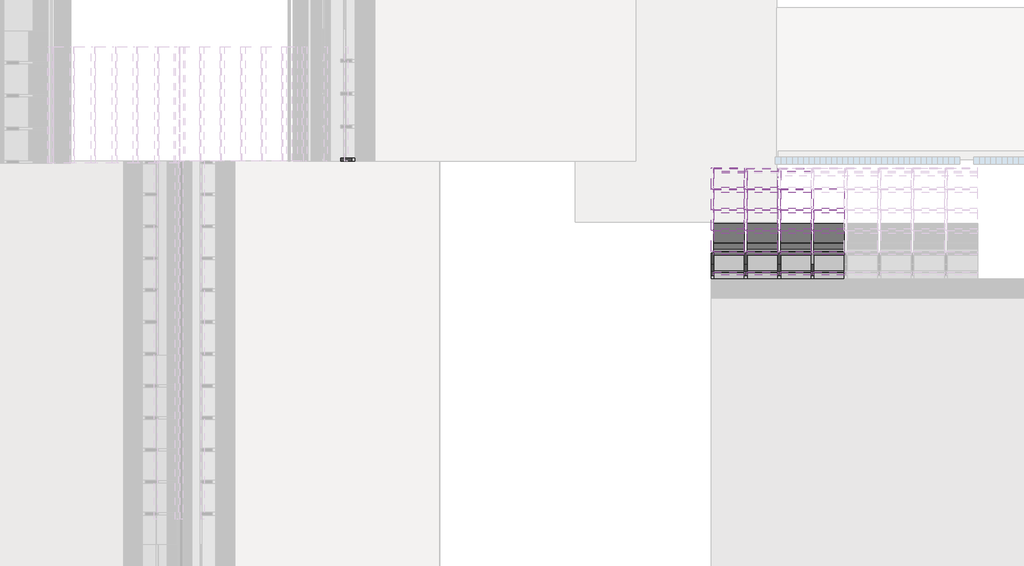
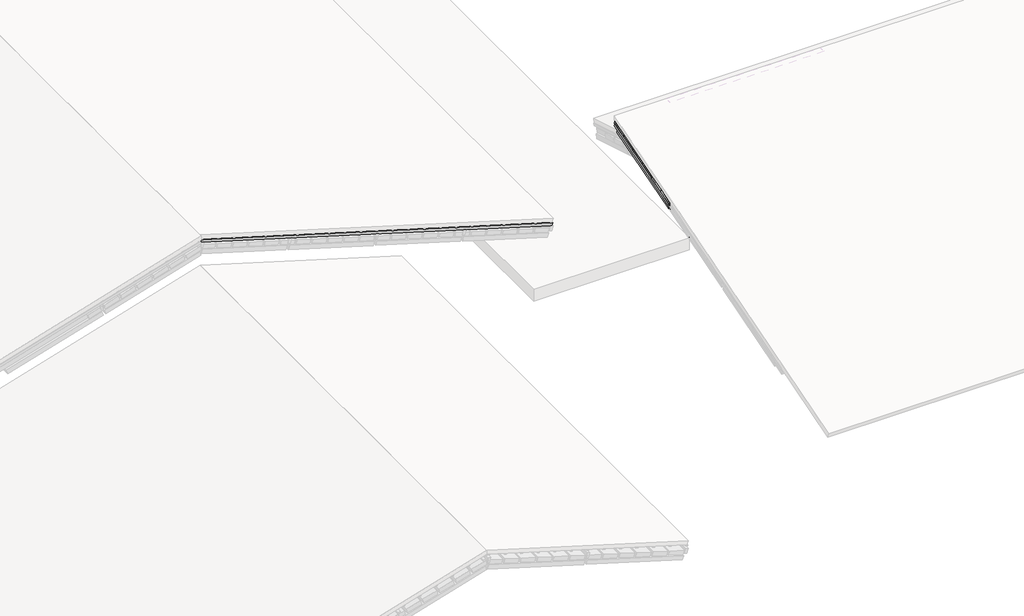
# One storey, part 12 of 57: 84 members, 38 plates.
"""IFC4 building model written with IfcOpenShell, lengths in millimetres."""

from ifc_helpers import new_model, si_unit, origin, place, context, project, spatial, transform, mapped, element, save
from components import rectangular_mullion_4c4137b9, rectangular_mullion_59984080, rectangular_mullion_d5690023, rectangular_mullion_2d2423ea, rectangular_mullion_70739a68, rectangular_mullion_caibro_df98490b, rectangular_mullion_caibro_e4384bba, rectangular_mullion_caibro_22b168a6, rectangular_mullion_caibro_0993a3cf, rectangular_mullion_caibro_9bd7bc61, rectangular_mullion_caibro_469f6316, rectangular_mullion_caibro_60a6547b, empty_system_panel_vazio_178faf58, empty_system_panel_vazio_2c78850d

model = new_model("IFC4")

# Units and contexts
model_context = context("Model", 3, world=origin())
ifc_project = project(units=[si_unit("LENGTHUNIT", "METRE", prefix="MILLI")], contexts=[model_context])

# Site, building, storey
site = spatial("IfcSite", under=ifc_project)
building = spatial("IfcBuilding", under=site)
storey = spatial("IfcBuildingStorey", under=building, Name="Nível 2", Elevation=4100.0)

# Members
placement = place(None, origin())
rectangular_mullion_shape = rectangular_mullion_4c4137b9(model_context)
element("IfcMember", 1, ObjectType="Rectangular Mullion : Ripa", at=placement, inside=storey, context=model_context, shape_type="MappedRepresentation", body=[
    mapped(rectangular_mullion_shape, transform((2348.7354086, 15566.1284427, 5819.8877114), x_axis=(0.0, 0.9578262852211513, 0.2873478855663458), y_axis=(0.0, 0.2873478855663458, -0.9578262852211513), z_axis=(-1.0, 0.0, 0.0))),
])
element("IfcMember", 2, ObjectType="Rectangular Mullion : Ripa", at=placement, inside=storey, context=model_context, shape_type="MappedRepresentation", body=[
    mapped(rectangular_mullion_shape, transform((2945.790165, 15566.1284427, 5819.8877114), x_axis=(0.0, 0.9578262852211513, 0.2873478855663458), y_axis=(0.0, 0.2873478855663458, -0.9578262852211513), z_axis=(-1.0, 0.0, 0.0))),
])
rectangular_mullion_2_shape = rectangular_mullion_59984080(model_context)
element("IfcMember", 3, ObjectType="Rectangular Mullion : Ripa", at=placement, inside=storey, context=model_context, shape_type="MappedRepresentation", body=[
    mapped(rectangular_mullion_2_shape, transform((1776.6806519, 12234.5331147, 4820.409113), x_axis=(0.0, 0.9578262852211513, 0.2873478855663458), y_axis=(0.0, 0.2873478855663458, -0.9578262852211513), z_axis=(-1.0, 0.0, 0.0))),
])
element("IfcMember", 4, ObjectType="Rectangular Mullion : Ripa", at=placement, inside=storey, context=model_context, shape_type="MappedRepresentation", body=[
    mapped(rectangular_mullion_2_shape, transform((2373.7354086, 12234.5331147, 4820.409113), x_axis=(0.0, 0.9578262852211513, 0.2873478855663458), y_axis=(0.0, 0.2873478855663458, -0.9578262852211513), z_axis=(-1.0, 0.0, 0.0))),
])
element("IfcMember", 5, ObjectType="Rectangular Mullion : Ripa", at=placement, inside=storey, context=model_context, shape_type="MappedRepresentation", body=[
    mapped(rectangular_mullion_2_shape, transform((2970.790165, 12234.5331147, 4820.409113), x_axis=(0.0, 0.9578262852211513, 0.2873478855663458), y_axis=(0.0, 0.2873478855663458, -0.9578262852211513), z_axis=(-1.0, 0.0, 0.0))),
])
element("IfcMember", 6, ObjectType="Rectangular Mullion : Ripa", at=placement, inside=storey, context=model_context, shape_type="MappedRepresentation", body=[
    mapped(rectangular_mullion_2_shape, transform((3567.8449214, 12234.5331147, 4820.409113), x_axis=(0.0, 0.9578262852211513, 0.2873478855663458), y_axis=(0.0, 0.2873478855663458, -0.9578262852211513), z_axis=(-1.0, 0.0, 0.0))),
])
element("IfcMember", 7, ObjectType="Rectangular Mullion : Ripa", at=placement, inside=storey, context=model_context, shape_type="MappedRepresentation", body=[
    mapped(rectangular_mullion_2_shape, transform((1776.6806519, 12604.7103734, 4931.4622906), x_axis=(0.0, 0.9578262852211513, 0.2873478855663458), y_axis=(0.0, 0.2873478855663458, -0.9578262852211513), z_axis=(-1.0, 0.0, 0.0))),
])
element("IfcMember", 8, ObjectType="Rectangular Mullion : Ripa", at=placement, inside=storey, context=model_context, shape_type="MappedRepresentation", body=[
    mapped(rectangular_mullion_2_shape, transform((2373.7354086, 12604.7103734, 4931.4622906), x_axis=(0.0, 0.9578262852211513, 0.2873478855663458), y_axis=(0.0, 0.2873478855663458, -0.9578262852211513), z_axis=(-1.0, 0.0, 0.0))),
])
element("IfcMember", 9, ObjectType="Rectangular Mullion : Ripa", at=placement, inside=storey, context=model_context, shape_type="MappedRepresentation", body=[
    mapped(rectangular_mullion_2_shape, transform((2970.790165, 12604.7103734, 4931.4622906), x_axis=(0.0, 0.9578262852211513, 0.2873478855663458), y_axis=(0.0, 0.2873478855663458, -0.9578262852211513), z_axis=(-1.0, 0.0, 0.0))),
])
element("IfcMember", 10, ObjectType="Rectangular Mullion : Ripa", at=placement, inside=storey, context=model_context, shape_type="MappedRepresentation", body=[
    mapped(rectangular_mullion_2_shape, transform((3567.8449214, 12604.7103734, 4931.4622906), x_axis=(0.0, 0.9578262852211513, 0.2873478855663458), y_axis=(0.0, 0.2873478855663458, -0.9578262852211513), z_axis=(-1.0, 0.0, 0.0))),
])
element("IfcMember", 11, ObjectType="Rectangular Mullion : Ripa", at=placement, inside=storey, context=model_context, shape_type="MappedRepresentation", body=[
    mapped(rectangular_mullion_2_shape, transform((1776.6806519, 12974.8876321, 5042.5154682), x_axis=(0.0, 0.9578262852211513, 0.2873478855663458), y_axis=(0.0, 0.2873478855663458, -0.9578262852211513), z_axis=(-1.0, 0.0, 0.0))),
])
element("IfcMember", 12, ObjectType="Rectangular Mullion : Ripa", at=placement, inside=storey, context=model_context, shape_type="MappedRepresentation", body=[
    mapped(rectangular_mullion_2_shape, transform((2373.7354086, 12974.8876321, 5042.5154682), x_axis=(0.0, 0.9578262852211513, 0.2873478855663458), y_axis=(0.0, 0.2873478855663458, -0.9578262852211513), z_axis=(-1.0, 0.0, 0.0))),
])
element("IfcMember", 13, ObjectType="Rectangular Mullion : Ripa", at=placement, inside=storey, context=model_context, shape_type="MappedRepresentation", body=[
    mapped(rectangular_mullion_2_shape, transform((2970.790165, 12974.8876321, 5042.5154682), x_axis=(0.0, 0.9578262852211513, 0.2873478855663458), y_axis=(0.0, 0.2873478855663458, -0.9578262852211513), z_axis=(-1.0, 0.0, 0.0))),
])
element("IfcMember", 14, ObjectType="Rectangular Mullion : Ripa", at=placement, inside=storey, context=model_context, shape_type="MappedRepresentation", body=[
    mapped(rectangular_mullion_2_shape, transform((3567.8449214, 12974.8876321, 5042.5154682), x_axis=(0.0, 0.9578262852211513, 0.2873478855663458), y_axis=(0.0, 0.2873478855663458, -0.9578262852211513), z_axis=(-1.0, 0.0, 0.0))),
])
element("IfcMember", 15, ObjectType="Rectangular Mullion : Ripa", at=placement, inside=storey, context=model_context, shape_type="MappedRepresentation", body=[
    mapped(rectangular_mullion_2_shape, transform((1776.6806519, 13345.0648907, 5153.5686458), x_axis=(0.0, 0.9578262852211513, 0.2873478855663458), y_axis=(0.0, 0.2873478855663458, -0.9578262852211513), z_axis=(-1.0, 0.0, 0.0))),
])
element("IfcMember", 16, ObjectType="Rectangular Mullion : Ripa", at=placement, inside=storey, context=model_context, shape_type="MappedRepresentation", body=[
    mapped(rectangular_mullion_2_shape, transform((2373.7354086, 13345.0648907, 5153.5686458), x_axis=(0.0, 0.9578262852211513, 0.2873478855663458), y_axis=(0.0, 0.2873478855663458, -0.9578262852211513), z_axis=(-1.0, 0.0, 0.0))),
])
element("IfcMember", 17, ObjectType="Rectangular Mullion : Ripa", at=placement, inside=storey, context=model_context, shape_type="MappedRepresentation", body=[
    mapped(rectangular_mullion_2_shape, transform((2970.790165, 13345.0648907, 5153.5686458), x_axis=(0.0, 0.9578262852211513, 0.2873478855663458), y_axis=(0.0, 0.2873478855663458, -0.9578262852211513), z_axis=(-1.0, 0.0, 0.0))),
])
element("IfcMember", 18, ObjectType="Rectangular Mullion : Ripa", at=placement, inside=storey, context=model_context, shape_type="MappedRepresentation", body=[
    mapped(rectangular_mullion_2_shape, transform((3567.8449214, 13345.0648907, 5153.5686458), x_axis=(0.0, 0.9578262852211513, 0.2873478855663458), y_axis=(0.0, 0.2873478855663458, -0.9578262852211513), z_axis=(-1.0, 0.0, 0.0))),
])
element("IfcMember", 19, ObjectType="Rectangular Mullion : Ripa", at=placement, inside=storey, context=model_context, shape_type="MappedRepresentation", body=[
    mapped(rectangular_mullion_2_shape, transform((1776.6806519, 13715.2421494, 5264.6218234), x_axis=(0.0, 0.9578262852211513, 0.2873478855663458), y_axis=(0.0, 0.2873478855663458, -0.9578262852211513), z_axis=(-1.0, 0.0, 0.0))),
])
element("IfcMember", 20, ObjectType="Rectangular Mullion : Ripa", at=placement, inside=storey, context=model_context, shape_type="MappedRepresentation", body=[
    mapped(rectangular_mullion_2_shape, transform((2373.7354086, 13715.2421494, 5264.6218234), x_axis=(0.0, 0.9578262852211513, 0.2873478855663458), y_axis=(0.0, 0.2873478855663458, -0.9578262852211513), z_axis=(-1.0, 0.0, 0.0))),
])
element("IfcMember", 21, ObjectType="Rectangular Mullion : Ripa", at=placement, inside=storey, context=model_context, shape_type="MappedRepresentation", body=[
    mapped(rectangular_mullion_2_shape, transform((2970.790165, 13715.2421494, 5264.6218234), x_axis=(0.0, 0.9578262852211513, 0.2873478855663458), y_axis=(0.0, 0.2873478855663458, -0.9578262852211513), z_axis=(-1.0, 0.0, 0.0))),
])
element("IfcMember", 22, ObjectType="Rectangular Mullion : Ripa", at=placement, inside=storey, context=model_context, shape_type="MappedRepresentation", body=[
    mapped(rectangular_mullion_2_shape, transform((3567.8449214, 13715.2421494, 5264.6218234), x_axis=(0.0, 0.9578262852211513, 0.2873478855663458), y_axis=(0.0, 0.2873478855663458, -0.9578262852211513), z_axis=(-1.0, 0.0, 0.0))),
])
element("IfcMember", 23, ObjectType="Rectangular Mullion : Ripa", at=placement, inside=storey, context=model_context, shape_type="MappedRepresentation", body=[
    mapped(rectangular_mullion_2_shape, transform((1776.6806519, 14085.4194081, 5375.675001), x_axis=(0.0, 0.9578262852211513, 0.2873478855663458), y_axis=(0.0, 0.2873478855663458, -0.9578262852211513), z_axis=(-1.0, 0.0, 0.0))),
])
element("IfcMember", 24, ObjectType="Rectangular Mullion : Ripa", at=placement, inside=storey, context=model_context, shape_type="MappedRepresentation", body=[
    mapped(rectangular_mullion_2_shape, transform((2373.7354086, 14085.4194081, 5375.675001), x_axis=(0.0, 0.9578262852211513, 0.2873478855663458), y_axis=(0.0, 0.2873478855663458, -0.9578262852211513), z_axis=(-1.0, 0.0, 0.0))),
])
element("IfcMember", 25, ObjectType="Rectangular Mullion : Ripa", at=placement, inside=storey, context=model_context, shape_type="MappedRepresentation", body=[
    mapped(rectangular_mullion_2_shape, transform((2970.790165, 14085.4194081, 5375.675001), x_axis=(0.0, 0.9578262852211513, 0.2873478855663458), y_axis=(0.0, 0.2873478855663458, -0.9578262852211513), z_axis=(-1.0, 0.0, 0.0))),
])
element("IfcMember", 26, ObjectType="Rectangular Mullion : Ripa", at=placement, inside=storey, context=model_context, shape_type="MappedRepresentation", body=[
    mapped(rectangular_mullion_2_shape, transform((3567.8449214, 14085.4194081, 5375.675001), x_axis=(0.0, 0.9578262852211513, 0.2873478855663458), y_axis=(0.0, 0.2873478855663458, -0.9578262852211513), z_axis=(-1.0, 0.0, 0.0))),
])
element("IfcMember", 27, ObjectType="Rectangular Mullion : Ripa", at=placement, inside=storey, context=model_context, shape_type="MappedRepresentation", body=[
    mapped(rectangular_mullion_2_shape, transform((1776.6806519, 14455.5966667, 5486.7281786), x_axis=(0.0, 0.9578262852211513, 0.2873478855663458), y_axis=(0.0, 0.2873478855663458, -0.9578262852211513), z_axis=(-1.0, 0.0, 0.0))),
])
element("IfcMember", 28, ObjectType="Rectangular Mullion : Ripa", at=placement, inside=storey, context=model_context, shape_type="MappedRepresentation", body=[
    mapped(rectangular_mullion_2_shape, transform((2373.7354086, 14455.5966667, 5486.7281786), x_axis=(0.0, 0.9578262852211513, 0.2873478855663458), y_axis=(0.0, 0.2873478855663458, -0.9578262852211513), z_axis=(-1.0, 0.0, 0.0))),
])
element("IfcMember", 29, ObjectType="Rectangular Mullion : Ripa", at=placement, inside=storey, context=model_context, shape_type="MappedRepresentation", body=[
    mapped(rectangular_mullion_2_shape, transform((2970.790165, 14455.5966667, 5486.7281786), x_axis=(0.0, 0.9578262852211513, 0.2873478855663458), y_axis=(0.0, 0.2873478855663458, -0.9578262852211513), z_axis=(-1.0, 0.0, 0.0))),
])
element("IfcMember", 30, ObjectType="Rectangular Mullion : Ripa", at=placement, inside=storey, context=model_context, shape_type="MappedRepresentation", body=[
    mapped(rectangular_mullion_2_shape, transform((3567.8449214, 14455.5966667, 5486.7281786), x_axis=(0.0, 0.9578262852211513, 0.2873478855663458), y_axis=(0.0, 0.2873478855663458, -0.9578262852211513), z_axis=(-1.0, 0.0, 0.0))),
])
element("IfcMember", 31, ObjectType="Rectangular Mullion : Ripa", at=placement, inside=storey, context=model_context, shape_type="MappedRepresentation", body=[
    mapped(rectangular_mullion_2_shape, transform((1776.6806519, 14825.7739254, 5597.7813562), x_axis=(0.0, 0.9578262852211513, 0.2873478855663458), y_axis=(0.0, 0.2873478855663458, -0.9578262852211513), z_axis=(-1.0, 0.0, 0.0))),
])
element("IfcMember", 32, ObjectType="Rectangular Mullion : Ripa", at=placement, inside=storey, context=model_context, shape_type="MappedRepresentation", body=[
    mapped(rectangular_mullion_2_shape, transform((2373.7354086, 14825.7739254, 5597.7813562), x_axis=(0.0, 0.9578262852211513, 0.2873478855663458), y_axis=(0.0, 0.2873478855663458, -0.9578262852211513), z_axis=(-1.0, 0.0, 0.0))),
])
element("IfcMember", 33, ObjectType="Rectangular Mullion : Ripa", at=placement, inside=storey, context=model_context, shape_type="MappedRepresentation", body=[
    mapped(rectangular_mullion_2_shape, transform((2970.790165, 14825.7739254, 5597.7813562), x_axis=(0.0, 0.9578262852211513, 0.2873478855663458), y_axis=(0.0, 0.2873478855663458, -0.9578262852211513), z_axis=(-1.0, 0.0, 0.0))),
])
element("IfcMember", 34, ObjectType="Rectangular Mullion : Ripa", at=placement, inside=storey, context=model_context, shape_type="MappedRepresentation", body=[
    mapped(rectangular_mullion_2_shape, transform((3567.8449214, 14825.7739254, 5597.7813562), x_axis=(0.0, 0.9578262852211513, 0.2873478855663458), y_axis=(0.0, 0.2873478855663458, -0.9578262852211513), z_axis=(-1.0, 0.0, 0.0))),
])
element("IfcMember", 35, ObjectType="Rectangular Mullion : Ripa", at=placement, inside=storey, context=model_context, shape_type="MappedRepresentation", body=[
    mapped(rectangular_mullion_2_shape, transform((1776.6806519, 15195.9511841, 5708.8345338), x_axis=(0.0, 0.9578262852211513, 0.2873478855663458), y_axis=(0.0, 0.2873478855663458, -0.9578262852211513), z_axis=(-1.0, 0.0, 0.0))),
])
element("IfcMember", 36, ObjectType="Rectangular Mullion : Ripa", at=placement, inside=storey, context=model_context, shape_type="MappedRepresentation", body=[
    mapped(rectangular_mullion_2_shape, transform((2373.7354086, 15195.9511841, 5708.8345338), x_axis=(0.0, 0.9578262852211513, 0.2873478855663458), y_axis=(0.0, 0.2873478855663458, -0.9578262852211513), z_axis=(-1.0, 0.0, 0.0))),
])
element("IfcMember", 37, ObjectType="Rectangular Mullion : Ripa", at=placement, inside=storey, context=model_context, shape_type="MappedRepresentation", body=[
    mapped(rectangular_mullion_2_shape, transform((2970.790165, 15195.9511841, 5708.8345338), x_axis=(0.0, 0.9578262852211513, 0.2873478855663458), y_axis=(0.0, 0.2873478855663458, -0.9578262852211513), z_axis=(-1.0, 0.0, 0.0))),
])
rectangular_mullion_3_shape = rectangular_mullion_d5690023(model_context)
element("IfcMember", 38, ObjectType="Rectangular Mullion : Ripa", at=placement, inside=storey, context=model_context, shape_type="MappedRepresentation", body=[
    mapped(rectangular_mullion_3_shape, transform((1776.6806519, 15566.1284427, 5819.8877114), x_axis=(0.0, 0.9578262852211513, 0.2873478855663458), y_axis=(0.0, 0.2873478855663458, -0.9578262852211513), z_axis=(-1.0, 0.0, 0.0))),
])
rectangular_mullion_4_shape = rectangular_mullion_2d2423ea(model_context)
element("IfcMember", 39, ObjectType="Rectangular Mullion : Terça", at=placement, inside=storey, context=model_context, shape_type="MappedRepresentation", body=[
    mapped(rectangular_mullion_4_shape, transform((1776.6806519, 13411.2689826, 5110.7880343), x_axis=(0.0, 0.9578262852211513, 0.2873478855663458), y_axis=(0.0, 0.2873478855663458, -0.9578262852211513), z_axis=(-1.0, 0.0, 0.0))),
])
element("IfcMember", 40, ObjectType="Rectangular Mullion : Terça", at=placement, inside=storey, context=model_context, shape_type="MappedRepresentation", body=[
    mapped(rectangular_mullion_4_shape, transform((2373.7354086, 13411.2689826, 5110.7880343), x_axis=(0.0, 0.9578262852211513, 0.2873478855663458), y_axis=(0.0, 0.2873478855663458, -0.9578262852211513), z_axis=(-1.0, 0.0, 0.0))),
])
element("IfcMember", 41, ObjectType="Rectangular Mullion : Terça", at=placement, inside=storey, context=model_context, shape_type="MappedRepresentation", body=[
    mapped(rectangular_mullion_4_shape, transform((2970.790165, 13411.2689826, 5110.7880343), x_axis=(0.0, 0.9578262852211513, 0.2873478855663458), y_axis=(0.0, 0.2873478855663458, -0.9578262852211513), z_axis=(-1.0, 0.0, 0.0))),
])
element("IfcMember", 42, ObjectType="Rectangular Mullion : Terça", at=placement, inside=storey, context=model_context, shape_type="MappedRepresentation", body=[
    mapped(rectangular_mullion_4_shape, transform((3567.8449214, 13411.2689826, 5110.7880343), x_axis=(0.0, 0.9578262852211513, 0.2873478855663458), y_axis=(0.0, 0.2873478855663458, -0.9578262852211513), z_axis=(-1.0, 0.0, 0.0))),
])
rectangular_mullion_5_shape = rectangular_mullion_70739a68(model_context)
element("IfcMember", 43, ObjectType="Rectangular Mullion : Terça", at=placement, inside=storey, context=model_context, shape_type="MappedRepresentation", body=[
    mapped(rectangular_mullion_5_shape, transform((1776.6806519, 15566.1284427, 5757.2458723), x_axis=(0.0, 0.9578262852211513, 0.2873478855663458), y_axis=(0.0, 0.2873478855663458, -0.9578262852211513), z_axis=(-1.0, 0.0, 0.0))),
])
rectangular_mullion_caibro_shape = rectangular_mullion_caibro_df98490b(model_context)
element("IfcMember", 44, ObjectType="Rectangular Mullion : Caibro", at=placement, inside=storey, context=model_context, shape_type="MappedRepresentation", body=[
    mapped(rectangular_mullion_caibro_shape, transform((2348.7354086, 15518.2371285, 5805.5203171), x_axis=(1.0, 0.0, 0.0), y_axis=(0.0, 0.28734788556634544, -0.9578262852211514), z_axis=(0.0, 0.9578262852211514, 0.28734788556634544))),
])
element("IfcMember", 45, ObjectType="Rectangular Mullion : Caibro", at=placement, inside=storey, context=model_context, shape_type="MappedRepresentation", body=[
    mapped(rectangular_mullion_caibro_shape, transform((2945.790165, 15518.2371285, 5805.5203171), x_axis=(1.0, 0.0, 0.0), y_axis=(0.0, 0.28734788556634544, -0.9578262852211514), z_axis=(0.0, 0.9578262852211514, 0.28734788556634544))),
])
rectangular_mullion_caibro_2_shape = rectangular_mullion_caibro_e4384bba(model_context)
element("IfcMember", 46, ObjectType="Rectangular Mullion : Caibro", at=placement, inside=storey, context=model_context, shape_type="MappedRepresentation", body=[
    mapped(rectangular_mullion_caibro_2_shape, transform((2348.7354086, 12234.5331147, 4820.409113), x_axis=(1.0, 0.0, 0.0), y_axis=(0.0, 0.2873478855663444, -0.9578262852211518), z_axis=(0.0, 0.9578262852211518, 0.2873478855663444))),
])
element("IfcMember", 47, ObjectType="Rectangular Mullion : Caibro", at=placement, inside=storey, context=model_context, shape_type="MappedRepresentation", body=[
    mapped(rectangular_mullion_caibro_2_shape, transform((2348.7354086, 12604.7103734, 4931.4622906), x_axis=(1.0, 0.0, 0.0), y_axis=(0.0, 0.2873478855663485, -0.9578262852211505), z_axis=(0.0, 0.9578262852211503, 0.28734788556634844))),
])
element("IfcMember", 48, ObjectType="Rectangular Mullion : Caibro", at=placement, inside=storey, context=model_context, shape_type="MappedRepresentation", body=[
    mapped(rectangular_mullion_caibro_2_shape, transform((2348.7354086, 12974.8876321, 5042.5154682), x_axis=(1.0, 0.0, 0.0), y_axis=(0.0, 0.2873478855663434, -0.957826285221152), z_axis=(0.0, 0.957826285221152, 0.2873478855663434))),
])
element("IfcMember", 49, ObjectType="Rectangular Mullion : Caibro", at=placement, inside=storey, context=model_context, shape_type="MappedRepresentation", body=[
    mapped(rectangular_mullion_caibro_2_shape, transform((2348.7354086, 13345.0648907, 5153.5686458), x_axis=(1.0, 0.0, 0.0), y_axis=(0.0, 0.28734788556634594, -0.9578262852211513), z_axis=(0.0, 0.9578262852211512, 0.2873478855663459))),
])
element("IfcMember", 50, ObjectType="Rectangular Mullion : Caibro", at=placement, inside=storey, context=model_context, shape_type="MappedRepresentation", body=[
    mapped(rectangular_mullion_caibro_2_shape, transform((2348.7354086, 13715.2421494, 5264.6218234), x_axis=(1.0, 0.0, 0.0), y_axis=(0.0, 0.28734788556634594, -0.9578262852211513), z_axis=(0.0, 0.9578262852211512, 0.2873478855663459))),
])
element("IfcMember", 51, ObjectType="Rectangular Mullion : Caibro", at=placement, inside=storey, context=model_context, shape_type="MappedRepresentation", body=[
    mapped(rectangular_mullion_caibro_2_shape, transform((2348.7354086, 14085.4194081, 5375.675001), x_axis=(1.0, 0.0, 0.0), y_axis=(0.0, 0.28734788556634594, -0.9578262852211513), z_axis=(0.0, 0.9578262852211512, 0.2873478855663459))),
])
element("IfcMember", 52, ObjectType="Rectangular Mullion : Caibro", at=placement, inside=storey, context=model_context, shape_type="MappedRepresentation", body=[
    mapped(rectangular_mullion_caibro_2_shape, transform((2348.7354086, 14455.5966667, 5486.7281786), x_axis=(1.0, 0.0, 0.0), y_axis=(0.0, 0.2873478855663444, -0.9578262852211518), z_axis=(0.0, 0.9578262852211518, 0.2873478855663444))),
])
element("IfcMember", 53, ObjectType="Rectangular Mullion : Caibro", at=placement, inside=storey, context=model_context, shape_type="MappedRepresentation", body=[
    mapped(rectangular_mullion_caibro_2_shape, transform((2348.7354086, 14825.7739254, 5597.7813562), x_axis=(1.0, 0.0, 0.0), y_axis=(0.0, 0.287347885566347, -0.9578262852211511), z_axis=(0.0, 0.9578262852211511, 0.287347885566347))),
])
element("IfcMember", 54, ObjectType="Rectangular Mullion : Caibro", at=placement, inside=storey, context=model_context, shape_type="MappedRepresentation", body=[
    mapped(rectangular_mullion_caibro_2_shape, transform((2348.7354086, 15195.9511841, 5708.8345338), x_axis=(1.0, 0.0, 0.0), y_axis=(0.0, 0.28734788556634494, -0.9578262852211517), z_axis=(0.0, 0.9578262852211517, 0.28734788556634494))),
])
element("IfcMember", 55, ObjectType="Rectangular Mullion : Caibro", at=placement, inside=storey, context=model_context, shape_type="MappedRepresentation", body=[
    mapped(rectangular_mullion_caibro_2_shape, transform((2945.790165, 12234.5331147, 4820.409113), x_axis=(1.0, 0.0, 0.0), y_axis=(0.0, 0.2873478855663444, -0.9578262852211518), z_axis=(0.0, 0.9578262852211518, 0.2873478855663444))),
])
element("IfcMember", 56, ObjectType="Rectangular Mullion : Caibro", at=placement, inside=storey, context=model_context, shape_type="MappedRepresentation", body=[
    mapped(rectangular_mullion_caibro_2_shape, transform((2945.790165, 12604.7103734, 4931.4622906), x_axis=(1.0, 0.0, 0.0), y_axis=(0.0, 0.2873478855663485, -0.9578262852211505), z_axis=(0.0, 0.9578262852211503, 0.28734788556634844))),
])
element("IfcMember", 57, ObjectType="Rectangular Mullion : Caibro", at=placement, inside=storey, context=model_context, shape_type="MappedRepresentation", body=[
    mapped(rectangular_mullion_caibro_2_shape, transform((2945.790165, 12974.8876321, 5042.5154682), x_axis=(1.0, 0.0, 0.0), y_axis=(0.0, 0.2873478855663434, -0.957826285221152), z_axis=(0.0, 0.957826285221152, 0.2873478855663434))),
])
element("IfcMember", 58, ObjectType="Rectangular Mullion : Caibro", at=placement, inside=storey, context=model_context, shape_type="MappedRepresentation", body=[
    mapped(rectangular_mullion_caibro_2_shape, transform((2945.790165, 13345.0648907, 5153.5686458), x_axis=(1.0, 0.0, 0.0), y_axis=(0.0, 0.28734788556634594, -0.9578262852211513), z_axis=(0.0, 0.9578262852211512, 0.2873478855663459))),
])
element("IfcMember", 59, ObjectType="Rectangular Mullion : Caibro", at=placement, inside=storey, context=model_context, shape_type="MappedRepresentation", body=[
    mapped(rectangular_mullion_caibro_2_shape, transform((2945.790165, 13715.2421494, 5264.6218234), x_axis=(1.0, 0.0, 0.0), y_axis=(0.0, 0.28734788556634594, -0.9578262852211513), z_axis=(0.0, 0.9578262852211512, 0.2873478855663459))),
])
element("IfcMember", 60, ObjectType="Rectangular Mullion : Caibro", at=placement, inside=storey, context=model_context, shape_type="MappedRepresentation", body=[
    mapped(rectangular_mullion_caibro_2_shape, transform((2945.790165, 14085.4194081, 5375.675001), x_axis=(1.0, 0.0, 0.0), y_axis=(0.0, 0.28734788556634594, -0.9578262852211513), z_axis=(0.0, 0.9578262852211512, 0.2873478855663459))),
])
element("IfcMember", 61, ObjectType="Rectangular Mullion : Caibro", at=placement, inside=storey, context=model_context, shape_type="MappedRepresentation", body=[
    mapped(rectangular_mullion_caibro_2_shape, transform((2945.790165, 14455.5966667, 5486.7281786), x_axis=(1.0, 0.0, 0.0), y_axis=(0.0, 0.2873478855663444, -0.9578262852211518), z_axis=(0.0, 0.9578262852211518, 0.2873478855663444))),
])
element("IfcMember", 62, ObjectType="Rectangular Mullion : Caibro", at=placement, inside=storey, context=model_context, shape_type="MappedRepresentation", body=[
    mapped(rectangular_mullion_caibro_2_shape, transform((2945.790165, 14825.7739254, 5597.7813562), x_axis=(1.0, 0.0, 0.0), y_axis=(0.0, 0.287347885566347, -0.9578262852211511), z_axis=(0.0, 0.9578262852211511, 0.287347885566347))),
])
element("IfcMember", 63, ObjectType="Rectangular Mullion : Caibro", at=placement, inside=storey, context=model_context, shape_type="MappedRepresentation", body=[
    mapped(rectangular_mullion_caibro_2_shape, transform((2945.790165, 15195.9511841, 5708.8345338), x_axis=(1.0, 0.0, 0.0), y_axis=(0.0, 0.28734788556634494, -0.9578262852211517), z_axis=(0.0, 0.9578262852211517, 0.28734788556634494))),
])
element("IfcMember", 64, ObjectType="Rectangular Mullion : Caibro", at=placement, inside=storey, context=model_context, shape_type="MappedRepresentation", body=[
    mapped(rectangular_mullion_caibro_2_shape, transform((3542.8449214, 12234.5331147, 4820.409113), x_axis=(1.0, 0.0, 0.0), y_axis=(0.0, 0.2873478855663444, -0.9578262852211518), z_axis=(0.0, 0.9578262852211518, 0.2873478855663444))),
])
element("IfcMember", 65, ObjectType="Rectangular Mullion : Caibro", at=placement, inside=storey, context=model_context, shape_type="MappedRepresentation", body=[
    mapped(rectangular_mullion_caibro_2_shape, transform((3542.8449214, 12604.7103734, 4931.4622906), x_axis=(1.0, 0.0, 0.0), y_axis=(0.0, 0.2873478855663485, -0.9578262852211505), z_axis=(0.0, 0.9578262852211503, 0.28734788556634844))),
])
element("IfcMember", 66, ObjectType="Rectangular Mullion : Caibro", at=placement, inside=storey, context=model_context, shape_type="MappedRepresentation", body=[
    mapped(rectangular_mullion_caibro_2_shape, transform((3542.8449214, 12974.8876321, 5042.5154682), x_axis=(1.0, 0.0, 0.0), y_axis=(0.0, 0.2873478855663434, -0.957826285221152), z_axis=(0.0, 0.957826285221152, 0.2873478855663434))),
])
element("IfcMember", 67, ObjectType="Rectangular Mullion : Caibro", at=placement, inside=storey, context=model_context, shape_type="MappedRepresentation", body=[
    mapped(rectangular_mullion_caibro_2_shape, transform((3542.8449214, 13345.0648907, 5153.5686458), x_axis=(1.0, 0.0, 0.0), y_axis=(0.0, 0.28734788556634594, -0.9578262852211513), z_axis=(0.0, 0.9578262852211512, 0.2873478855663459))),
])
element("IfcMember", 68, ObjectType="Rectangular Mullion : Caibro", at=placement, inside=storey, context=model_context, shape_type="MappedRepresentation", body=[
    mapped(rectangular_mullion_caibro_2_shape, transform((3542.8449214, 13715.2421494, 5264.6218234), x_axis=(1.0, 0.0, 0.0), y_axis=(0.0, 0.28734788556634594, -0.9578262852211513), z_axis=(0.0, 0.9578262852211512, 0.2873478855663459))),
])
element("IfcMember", 69, ObjectType="Rectangular Mullion : Caibro", at=placement, inside=storey, context=model_context, shape_type="MappedRepresentation", body=[
    mapped(rectangular_mullion_caibro_2_shape, transform((3542.8449214, 14085.4194081, 5375.675001), x_axis=(1.0, 0.0, 0.0), y_axis=(0.0, 0.28734788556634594, -0.9578262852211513), z_axis=(0.0, 0.9578262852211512, 0.2873478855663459))),
])
element("IfcMember", 70, ObjectType="Rectangular Mullion : Caibro", at=placement, inside=storey, context=model_context, shape_type="MappedRepresentation", body=[
    mapped(rectangular_mullion_caibro_2_shape, transform((3542.8449214, 14455.5966667, 5486.7281786), x_axis=(1.0, 0.0, 0.0), y_axis=(0.0, 0.2873478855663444, -0.9578262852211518), z_axis=(0.0, 0.9578262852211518, 0.2873478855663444))),
])
element("IfcMember", 71, ObjectType="Rectangular Mullion : Caibro", at=placement, inside=storey, context=model_context, shape_type="MappedRepresentation", body=[
    mapped(rectangular_mullion_caibro_2_shape, transform((3542.8449214, 14825.7739254, 5597.7813562), x_axis=(1.0, 0.0, 0.0), y_axis=(0.0, 0.287347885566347, -0.9578262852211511), z_axis=(0.0, 0.9578262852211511, 0.287347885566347))),
])
rectangular_mullion_caibro_3_shape = rectangular_mullion_caibro_22b168a6(model_context)
element("IfcMember", 72, ObjectType="Rectangular Mullion : Caibro", at=placement, inside=storey, context=model_context, shape_type="MappedRepresentation", body=[
    mapped(rectangular_mullion_caibro_3_shape, transform((1726.6806519, 13345.0648907, 5153.5686458), x_axis=(-1.0, 0.0, 0.0), y_axis=(0.0, 0.28734788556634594, -0.9578262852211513), z_axis=(0.0, -0.9578262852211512, -0.2873478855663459))),
])
element("IfcMember", 73, ObjectType="Rectangular Mullion : Caibro", at=placement, inside=storey, context=model_context, shape_type="MappedRepresentation", body=[
    mapped(rectangular_mullion_caibro_3_shape, transform((1726.6806519, 13715.2421494, 5264.6218234), x_axis=(-1.0, 0.0, 0.0), y_axis=(0.0, 0.28734788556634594, -0.9578262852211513), z_axis=(0.0, -0.9578262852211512, -0.2873478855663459))),
])
element("IfcMember", 74, ObjectType="Rectangular Mullion : Caibro", at=placement, inside=storey, context=model_context, shape_type="MappedRepresentation", body=[
    mapped(rectangular_mullion_caibro_3_shape, transform((1726.6806519, 14085.4194081, 5375.675001), x_axis=(-1.0, 0.0, 0.0), y_axis=(0.0, 0.28734788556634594, -0.9578262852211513), z_axis=(0.0, -0.9578262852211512, -0.2873478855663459))),
])
element("IfcMember", 75, ObjectType="Rectangular Mullion : Caibro", at=placement, inside=storey, context=model_context, shape_type="MappedRepresentation", body=[
    mapped(rectangular_mullion_caibro_3_shape, transform((1726.6806519, 14455.5966667, 5486.7281786), x_axis=(-1.0, 0.0, 0.0), y_axis=(0.0, 0.28734788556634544, -0.9578262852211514), z_axis=(0.0, -0.9578262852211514, -0.28734788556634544))),
])
element("IfcMember", 76, ObjectType="Rectangular Mullion : Caibro", at=placement, inside=storey, context=model_context, shape_type="MappedRepresentation", body=[
    mapped(rectangular_mullion_caibro_3_shape, transform((1726.6806519, 14825.7739254, 5597.7813562), x_axis=(-1.0, 0.0, 0.0), y_axis=(0.0, 0.28734788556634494, -0.9578262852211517), z_axis=(0.0, -0.9578262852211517, -0.28734788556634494))),
])
element("IfcMember", 77, ObjectType="Rectangular Mullion : Caibro", at=placement, inside=storey, context=model_context, shape_type="MappedRepresentation", body=[
    mapped(rectangular_mullion_caibro_3_shape, transform((1726.6806519, 15195.9511841, 5708.8345338), x_axis=(-1.0, 0.0, 0.0), y_axis=(0.0, 0.28734788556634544, -0.9578262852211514), z_axis=(0.0, -0.9578262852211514, -0.28734788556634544))),
])
rectangular_mullion_caibro_4_shape = rectangular_mullion_caibro_0993a3cf(model_context)
element("IfcMember", 78, ObjectType="Rectangular Mullion : Caibro", at=placement, inside=storey, context=model_context, shape_type="MappedRepresentation", body=[
    mapped(rectangular_mullion_caibro_4_shape, transform((2348.7354086, 15508.6588656, 5740.0049992), x_axis=(1.0, 0.0, 0.0), y_axis=(0.0, 0.28734788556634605, -0.9578262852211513), z_axis=(0.0, 0.9578262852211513, 0.28734788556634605))),
])
element("IfcMember", 79, ObjectType="Rectangular Mullion : Caibro", at=placement, inside=storey, context=model_context, shape_type="MappedRepresentation", body=[
    mapped(rectangular_mullion_caibro_4_shape, transform((2945.790165, 15508.6588656, 5740.0049992), x_axis=(1.0, 0.0, 0.0), y_axis=(0.0, 0.28734788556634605, -0.9578262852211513), z_axis=(0.0, 0.9578262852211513, 0.28734788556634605))),
])
rectangular_mullion_caibro_5_shape = rectangular_mullion_caibro_9bd7bc61(model_context)
element("IfcMember", 80, ObjectType="Rectangular Mullion : Caibro", at=placement, inside=storey, context=model_context, shape_type="MappedRepresentation", body=[
    mapped(rectangular_mullion_caibro_5_shape, transform((2348.7354086, 13411.2689826, 5110.7880343), x_axis=(1.0, 0.0, 0.0), y_axis=(0.0, 0.2873478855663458, -0.9578262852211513), z_axis=(0.0, 0.9578262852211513, 0.2873478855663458))),
])
element("IfcMember", 81, ObjectType="Rectangular Mullion : Caibro", at=placement, inside=storey, context=model_context, shape_type="MappedRepresentation", body=[
    mapped(rectangular_mullion_caibro_5_shape, transform((2945.790165, 13411.2689826, 5110.7880343), x_axis=(1.0, 0.0, 0.0), y_axis=(0.0, 0.2873478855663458, -0.9578262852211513), z_axis=(0.0, 0.9578262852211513, 0.2873478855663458))),
])
element("IfcMember", 82, ObjectType="Rectangular Mullion : Caibro", at=placement, inside=storey, context=model_context, shape_type="MappedRepresentation", body=[
    mapped(rectangular_mullion_caibro_5_shape, transform((3542.8449214, 13411.2689826, 5110.7880343), x_axis=(1.0, 0.0, 0.0), y_axis=(0.0, 0.2873478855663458, -0.9578262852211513), z_axis=(0.0, 0.9578262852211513, 0.2873478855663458))),
])
rectangular_mullion_caibro_6_shape = rectangular_mullion_caibro_469f6316(model_context)
element("IfcMember", 83, ObjectType="Rectangular Mullion : Caibro", at=placement, inside=storey, context=model_context, shape_type="MappedRepresentation", body=[
    mapped(rectangular_mullion_caibro_6_shape, transform((1726.6806519, 13411.2689826, 5110.7880343), x_axis=(-1.0, 0.0, 0.0), y_axis=(0.0, 0.28734788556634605, -0.9578262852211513), z_axis=(0.0, -0.9578262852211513, -0.28734788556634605))),
])
rectangular_mullion_caibro_7_shape = rectangular_mullion_caibro_60a6547b(model_context)
element("IfcMember", 84, ObjectType="Rectangular Mullion : Caibro", at=placement, inside=storey, context=model_context, shape_type="MappedRepresentation", body=[
    mapped(rectangular_mullion_caibro_7_shape, transform((347.7937639, 15690.170769, 3724.0681378), x_axis=(0.0, -1.0, 0.0), y_axis=(-0.287347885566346, 0.0, -0.9578262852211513), z_axis=(0.9578262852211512, 0.0, -0.28734788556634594))),
])

# Plates
empty_system_panel_vazio_shape = empty_system_panel_vazio_178faf58(model_context)
element("IfcPlate", 85, ObjectType="Empty System Panel : Vazio", at=placement, inside=storey, context=model_context, shape_type="MappedRepresentation", body=[
    mapped(empty_system_panel_vazio_shape, transform((2050.2080302, 12234.5331147, 4820.409113), x_axis=(1.0, 0.0, 0.0), y_axis=(0.0, 0.2873478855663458, -0.9578262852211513), z_axis=(0.0, 0.9578262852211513, 0.2873478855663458))),
])
element("IfcPlate", 86, ObjectType="Empty System Panel : Vazio", at=placement, inside=storey, context=model_context, shape_type="MappedRepresentation", body=[
    mapped(empty_system_panel_vazio_shape, transform((2647.2627868, 12234.5331147, 4820.409113), x_axis=(1.0, 0.0, 0.0), y_axis=(0.0, 0.2873478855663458, -0.9578262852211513), z_axis=(0.0, 0.9578262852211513, 0.2873478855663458))),
])
element("IfcPlate", 87, ObjectType="Empty System Panel : Vazio", at=placement, inside=storey, context=model_context, shape_type="MappedRepresentation", body=[
    mapped(empty_system_panel_vazio_shape, transform((3244.3175432, 12234.5331147, 4820.409113), x_axis=(1.0, 0.0, 0.0), y_axis=(0.0, 0.2873478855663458, -0.9578262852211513), z_axis=(0.0, 0.9578262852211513, 0.2873478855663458))),
])
element("IfcPlate", 88, ObjectType="Empty System Panel : Vazio", at=placement, inside=storey, context=model_context, shape_type="MappedRepresentation", body=[
    mapped(empty_system_panel_vazio_shape, transform((3841.3722996, 12234.5331147, 4820.409113), x_axis=(1.0, 0.0, 0.0), y_axis=(0.0, 0.2873478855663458, -0.9578262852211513), z_axis=(0.0, 0.9578262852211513, 0.2873478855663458))),
])
element("IfcPlate", 89, ObjectType="Empty System Panel : Vazio", at=placement, inside=storey, context=model_context, shape_type="MappedRepresentation", body=[
    mapped(empty_system_panel_vazio_shape, transform((2050.2080302, 12604.7103734, 4931.4622906), x_axis=(1.0, 0.0, 0.0), y_axis=(0.0, 0.2873478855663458, -0.9578262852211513), z_axis=(0.0, 0.9578262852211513, 0.2873478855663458))),
])
element("IfcPlate", 90, ObjectType="Empty System Panel : Vazio", at=placement, inside=storey, context=model_context, shape_type="MappedRepresentation", body=[
    mapped(empty_system_panel_vazio_shape, transform((2647.2627868, 12604.7103734, 4931.4622906), x_axis=(1.0, 0.0, 0.0), y_axis=(0.0, 0.2873478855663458, -0.9578262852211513), z_axis=(0.0, 0.9578262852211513, 0.2873478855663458))),
])
element("IfcPlate", 91, ObjectType="Empty System Panel : Vazio", at=placement, inside=storey, context=model_context, shape_type="MappedRepresentation", body=[
    mapped(empty_system_panel_vazio_shape, transform((3244.3175432, 12604.7103734, 4931.4622906), x_axis=(1.0, 0.0, 0.0), y_axis=(0.0, 0.2873478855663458, -0.9578262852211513), z_axis=(0.0, 0.9578262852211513, 0.2873478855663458))),
])
element("IfcPlate", 92, ObjectType="Empty System Panel : Vazio", at=placement, inside=storey, context=model_context, shape_type="MappedRepresentation", body=[
    mapped(empty_system_panel_vazio_shape, transform((3841.3722996, 12604.7103734, 4931.4622906), x_axis=(1.0, 0.0, 0.0), y_axis=(0.0, 0.2873478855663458, -0.9578262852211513), z_axis=(0.0, 0.9578262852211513, 0.2873478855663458))),
])
element("IfcPlate", 93, ObjectType="Empty System Panel : Vazio", at=placement, inside=storey, context=model_context, shape_type="MappedRepresentation", body=[
    mapped(empty_system_panel_vazio_shape, transform((2050.2080302, 12974.8876321, 5042.5154682), x_axis=(1.0, 0.0, 0.0), y_axis=(0.0, 0.2873478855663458, -0.9578262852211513), z_axis=(0.0, 0.9578262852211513, 0.2873478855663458))),
])
element("IfcPlate", 94, ObjectType="Empty System Panel : Vazio", at=placement, inside=storey, context=model_context, shape_type="MappedRepresentation", body=[
    mapped(empty_system_panel_vazio_shape, transform((2647.2627868, 12974.8876321, 5042.5154682), x_axis=(1.0, 0.0, 0.0), y_axis=(0.0, 0.2873478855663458, -0.9578262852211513), z_axis=(0.0, 0.9578262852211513, 0.2873478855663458))),
])
element("IfcPlate", 95, ObjectType="Empty System Panel : Vazio", at=placement, inside=storey, context=model_context, shape_type="MappedRepresentation", body=[
    mapped(empty_system_panel_vazio_shape, transform((3244.3175432, 12974.8876321, 5042.5154682), x_axis=(1.0, 0.0, 0.0), y_axis=(0.0, 0.2873478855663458, -0.9578262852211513), z_axis=(0.0, 0.9578262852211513, 0.2873478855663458))),
])
element("IfcPlate", 96, ObjectType="Empty System Panel : Vazio", at=placement, inside=storey, context=model_context, shape_type="MappedRepresentation", body=[
    mapped(empty_system_panel_vazio_shape, transform((3841.3722996, 12974.8876321, 5042.5154682), x_axis=(1.0, 0.0, 0.0), y_axis=(0.0, 0.2873478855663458, -0.9578262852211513), z_axis=(0.0, 0.9578262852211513, 0.2873478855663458))),
])
element("IfcPlate", 97, ObjectType="Empty System Panel : Vazio", at=placement, inside=storey, context=model_context, shape_type="MappedRepresentation", body=[
    mapped(empty_system_panel_vazio_shape, transform((2050.2080302, 13345.0648907, 5153.5686458), x_axis=(1.0, 0.0, 0.0), y_axis=(0.0, 0.2873478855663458, -0.9578262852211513), z_axis=(0.0, 0.9578262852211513, 0.2873478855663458))),
])
element("IfcPlate", 98, ObjectType="Empty System Panel : Vazio", at=placement, inside=storey, context=model_context, shape_type="MappedRepresentation", body=[
    mapped(empty_system_panel_vazio_shape, transform((2647.2627868, 13345.0648907, 5153.5686458), x_axis=(1.0, 0.0, 0.0), y_axis=(0.0, 0.2873478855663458, -0.9578262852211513), z_axis=(0.0, 0.9578262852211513, 0.2873478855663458))),
])
element("IfcPlate", 99, ObjectType="Empty System Panel : Vazio", at=placement, inside=storey, context=model_context, shape_type="MappedRepresentation", body=[
    mapped(empty_system_panel_vazio_shape, transform((3244.3175432, 13345.0648907, 5153.5686458), x_axis=(1.0, 0.0, 0.0), y_axis=(0.0, 0.2873478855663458, -0.9578262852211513), z_axis=(0.0, 0.9578262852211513, 0.2873478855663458))),
])
element("IfcPlate", 100, ObjectType="Empty System Panel : Vazio", at=placement, inside=storey, context=model_context, shape_type="MappedRepresentation", body=[
    mapped(empty_system_panel_vazio_shape, transform((3841.3722996, 13345.0648907, 5153.5686458), x_axis=(1.0, 0.0, 0.0), y_axis=(0.0, 0.2873478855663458, -0.9578262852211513), z_axis=(0.0, 0.9578262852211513, 0.2873478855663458))),
])
element("IfcPlate", 101, ObjectType="Empty System Panel : Vazio", at=placement, inside=storey, context=model_context, shape_type="MappedRepresentation", body=[
    mapped(empty_system_panel_vazio_shape, transform((2050.2080302, 13715.2421494, 5264.6218234), x_axis=(1.0, 0.0, 0.0), y_axis=(0.0, 0.2873478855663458, -0.9578262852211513), z_axis=(0.0, 0.9578262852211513, 0.2873478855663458))),
])
element("IfcPlate", 102, ObjectType="Empty System Panel : Vazio", at=placement, inside=storey, context=model_context, shape_type="MappedRepresentation", body=[
    mapped(empty_system_panel_vazio_shape, transform((2647.2627868, 13715.2421494, 5264.6218234), x_axis=(1.0, 0.0, 0.0), y_axis=(0.0, 0.2873478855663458, -0.9578262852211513), z_axis=(0.0, 0.9578262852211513, 0.2873478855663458))),
])
element("IfcPlate", 103, ObjectType="Empty System Panel : Vazio", at=placement, inside=storey, context=model_context, shape_type="MappedRepresentation", body=[
    mapped(empty_system_panel_vazio_shape, transform((3244.3175432, 13715.2421494, 5264.6218234), x_axis=(1.0, 0.0, 0.0), y_axis=(0.0, 0.2873478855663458, -0.9578262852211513), z_axis=(0.0, 0.9578262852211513, 0.2873478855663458))),
])
element("IfcPlate", 104, ObjectType="Empty System Panel : Vazio", at=placement, inside=storey, context=model_context, shape_type="MappedRepresentation", body=[
    mapped(empty_system_panel_vazio_shape, transform((3841.3722996, 13715.2421494, 5264.6218234), x_axis=(1.0, 0.0, 0.0), y_axis=(0.0, 0.2873478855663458, -0.9578262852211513), z_axis=(0.0, 0.9578262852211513, 0.2873478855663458))),
])
element("IfcPlate", 105, ObjectType="Empty System Panel : Vazio", at=placement, inside=storey, context=model_context, shape_type="MappedRepresentation", body=[
    mapped(empty_system_panel_vazio_shape, transform((2050.2080302, 14085.4194081, 5375.675001), x_axis=(1.0, 0.0, 0.0), y_axis=(0.0, 0.2873478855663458, -0.9578262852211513), z_axis=(0.0, 0.9578262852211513, 0.2873478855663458))),
])
element("IfcPlate", 106, ObjectType="Empty System Panel : Vazio", at=placement, inside=storey, context=model_context, shape_type="MappedRepresentation", body=[
    mapped(empty_system_panel_vazio_shape, transform((2647.2627868, 14085.4194081, 5375.675001), x_axis=(1.0, 0.0, 0.0), y_axis=(0.0, 0.2873478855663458, -0.9578262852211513), z_axis=(0.0, 0.9578262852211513, 0.2873478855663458))),
])
element("IfcPlate", 107, ObjectType="Empty System Panel : Vazio", at=placement, inside=storey, context=model_context, shape_type="MappedRepresentation", body=[
    mapped(empty_system_panel_vazio_shape, transform((3244.3175432, 14085.4194081, 5375.675001), x_axis=(1.0, 0.0, 0.0), y_axis=(0.0, 0.2873478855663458, -0.9578262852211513), z_axis=(0.0, 0.9578262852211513, 0.2873478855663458))),
])
element("IfcPlate", 108, ObjectType="Empty System Panel : Vazio", at=placement, inside=storey, context=model_context, shape_type="MappedRepresentation", body=[
    mapped(empty_system_panel_vazio_shape, transform((3841.3722996, 14085.4194081, 5375.675001), x_axis=(1.0, 0.0, 0.0), y_axis=(0.0, 0.2873478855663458, -0.9578262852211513), z_axis=(0.0, 0.9578262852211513, 0.2873478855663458))),
])
element("IfcPlate", 109, ObjectType="Empty System Panel : Vazio", at=placement, inside=storey, context=model_context, shape_type="MappedRepresentation", body=[
    mapped(empty_system_panel_vazio_shape, transform((2050.2080302, 14455.5966667, 5486.7281786), x_axis=(1.0, 0.0, 0.0), y_axis=(0.0, 0.2873478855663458, -0.9578262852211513), z_axis=(0.0, 0.9578262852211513, 0.2873478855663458))),
])
element("IfcPlate", 110, ObjectType="Empty System Panel : Vazio", at=placement, inside=storey, context=model_context, shape_type="MappedRepresentation", body=[
    mapped(empty_system_panel_vazio_shape, transform((2647.2627868, 14455.5966667, 5486.7281786), x_axis=(1.0, 0.0, 0.0), y_axis=(0.0, 0.2873478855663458, -0.9578262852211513), z_axis=(0.0, 0.9578262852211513, 0.2873478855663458))),
])
element("IfcPlate", 111, ObjectType="Empty System Panel : Vazio", at=placement, inside=storey, context=model_context, shape_type="MappedRepresentation", body=[
    mapped(empty_system_panel_vazio_shape, transform((3244.3175432, 14455.5966667, 5486.7281786), x_axis=(1.0, 0.0, 0.0), y_axis=(0.0, 0.2873478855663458, -0.9578262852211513), z_axis=(0.0, 0.9578262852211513, 0.2873478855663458))),
])
element("IfcPlate", 112, ObjectType="Empty System Panel : Vazio", at=placement, inside=storey, context=model_context, shape_type="MappedRepresentation", body=[
    mapped(empty_system_panel_vazio_shape, transform((3841.3722996, 14455.5966667, 5486.7281786), x_axis=(1.0, 0.0, 0.0), y_axis=(0.0, 0.2873478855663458, -0.9578262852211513), z_axis=(0.0, 0.9578262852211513, 0.2873478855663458))),
])
element("IfcPlate", 113, ObjectType="Empty System Panel : Vazio", at=placement, inside=storey, context=model_context, shape_type="MappedRepresentation", body=[
    mapped(empty_system_panel_vazio_shape, transform((2050.2080302, 14825.7739254, 5597.7813562), x_axis=(1.0, 0.0, 0.0), y_axis=(0.0, 0.2873478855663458, -0.9578262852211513), z_axis=(0.0, 0.9578262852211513, 0.2873478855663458))),
])
element("IfcPlate", 114, ObjectType="Empty System Panel : Vazio", at=placement, inside=storey, context=model_context, shape_type="MappedRepresentation", body=[
    mapped(empty_system_panel_vazio_shape, transform((2647.2627868, 14825.7739254, 5597.7813562), x_axis=(1.0, 0.0, 0.0), y_axis=(0.0, 0.2873478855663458, -0.9578262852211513), z_axis=(0.0, 0.9578262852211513, 0.2873478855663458))),
])
element("IfcPlate", 115, ObjectType="Empty System Panel : Vazio", at=placement, inside=storey, context=model_context, shape_type="MappedRepresentation", body=[
    mapped(empty_system_panel_vazio_shape, transform((3244.3175432, 14825.7739254, 5597.7813562), x_axis=(1.0, 0.0, 0.0), y_axis=(0.0, 0.2873478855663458, -0.9578262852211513), z_axis=(0.0, 0.9578262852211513, 0.2873478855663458))),
])
element("IfcPlate", 116, ObjectType="Empty System Panel : Vazio", at=placement, inside=storey, context=model_context, shape_type="MappedRepresentation", body=[
    mapped(empty_system_panel_vazio_shape, transform((3841.3722996, 14825.7739254, 5597.7813562), x_axis=(1.0, 0.0, 0.0), y_axis=(0.0, 0.2873478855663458, -0.9578262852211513), z_axis=(0.0, 0.9578262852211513, 0.2873478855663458))),
])
element("IfcPlate", 117, ObjectType="Empty System Panel : Vazio", at=placement, inside=storey, context=model_context, shape_type="MappedRepresentation", body=[
    mapped(empty_system_panel_vazio_shape, transform((2050.2080302, 15195.9511841, 5708.8345338), x_axis=(1.0, 0.0, 0.0), y_axis=(0.0, 0.2873478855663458, -0.9578262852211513), z_axis=(0.0, 0.9578262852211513, 0.2873478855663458))),
])
element("IfcPlate", 118, ObjectType="Empty System Panel : Vazio", at=placement, inside=storey, context=model_context, shape_type="MappedRepresentation", body=[
    mapped(empty_system_panel_vazio_shape, transform((2647.2627868, 15195.9511841, 5708.8345338), x_axis=(1.0, 0.0, 0.0), y_axis=(0.0, 0.2873478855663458, -0.9578262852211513), z_axis=(0.0, 0.9578262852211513, 0.2873478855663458))),
])
empty_system_panel_vazio_2_shape = empty_system_panel_vazio_2c78850d(model_context)
element("IfcPlate", 119, ObjectType="Empty System Panel : Vazio", at=placement, inside=storey, context=model_context, shape_type="MappedRepresentation", body=[
    mapped(empty_system_panel_vazio_2_shape, transform((2050.2080302, 13440.0037711, 5119.4084708), x_axis=(1.0, 0.0, 0.0), y_axis=(0.0, 0.2873478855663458, -0.9578262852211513), z_axis=(0.0, 0.9578262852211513, 0.2873478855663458))),
])
element("IfcPlate", 120, ObjectType="Empty System Panel : Vazio", at=placement, inside=storey, context=model_context, shape_type="MappedRepresentation", body=[
    mapped(empty_system_panel_vazio_2_shape, transform((2647.2627868, 13440.0037711, 5119.4084708), x_axis=(1.0, 0.0, 0.0), y_axis=(0.0, 0.2873478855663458, -0.9578262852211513), z_axis=(0.0, 0.9578262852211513, 0.2873478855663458))),
])
element("IfcPlate", 121, ObjectType="Empty System Panel : Vazio", at=placement, inside=storey, context=model_context, shape_type="MappedRepresentation", body=[
    mapped(empty_system_panel_vazio_2_shape, transform((3244.3175432, 13440.0037711, 5119.4084708), x_axis=(1.0, 0.0, 0.0), y_axis=(0.0, 0.2873478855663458, -0.9578262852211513), z_axis=(0.0, 0.9578262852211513, 0.2873478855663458))),
])
element("IfcPlate", 122, ObjectType="Empty System Panel : Vazio", at=placement, inside=storey, context=model_context, shape_type="MappedRepresentation", body=[
    mapped(empty_system_panel_vazio_2_shape, transform((3841.3722996, 13440.0037711, 5119.4084708), x_axis=(1.0, 0.0, 0.0), y_axis=(0.0, 0.2873478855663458, -0.9578262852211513), z_axis=(0.0, 0.9578262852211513, 0.2873478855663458))),
])

save(model, "model.ifc")
